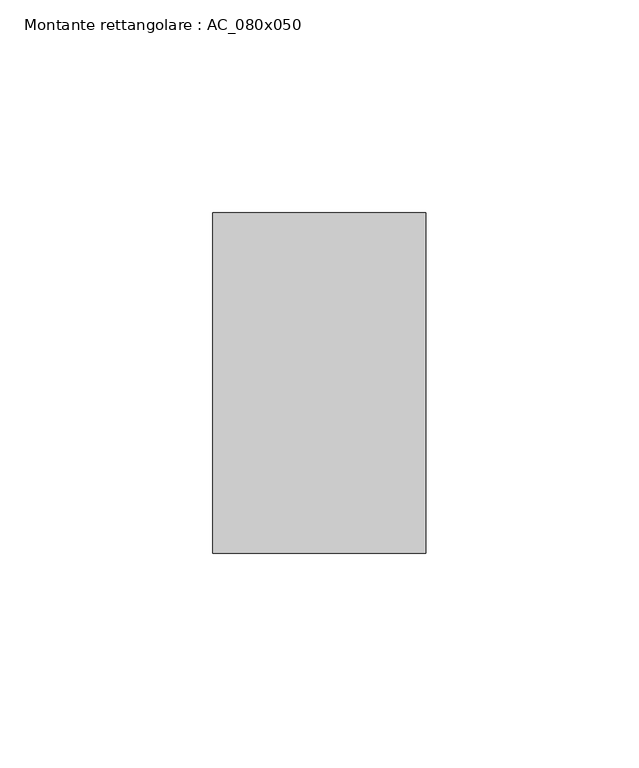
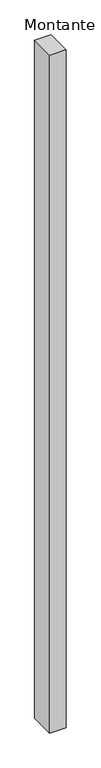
"""IFC4 building model written with IfcOpenShell, lengths in millimetres: member geometry, Montante rettangolare : AC_080x050."""

from ifc_helpers import new_model, si_unit, frame, origin, place, context, project, spatial, polyline, outline, extrude, source, transform, mapped, element, save


def montante_rettangolare_ac_080x050_85a4022c(model_context):
    return source(origin(), model_context, "Body", "SweptSolid", [
        extrude(outline(polyline([(0.0, 40.0), (0.0, -40.0), (-50.0, -40.0), (-50.0, 40.0), (0.0, 40.0)])), frame((0.0, 0.0, -2200.0), z_axis=(0.0, 0.0, 1.0), x_axis=(1.0, 0.0, 0.0)), (0.0, 0.0, 1.0), 2200.0),
    ])


if __name__ == "__main__":
    model = new_model("IFC4")
    model_context = context("Model", 3, world=origin())
    ifc_project = project(units=[si_unit("LENGTHUNIT", "METRE", prefix="MILLI")], contexts=[model_context])
    site = spatial("IfcSite", under=ifc_project)
    building = spatial("IfcBuilding", under=site)
    placement = place(None, origin())
    montante_rettangolare_ac_080x050_shape = montante_rettangolare_ac_080x050_85a4022c(model_context)
    element("IfcMember", 1, ObjectType="Montante rettangolare : AC_080x050", at=placement, inside=building, context=model_context, shape_type="MappedRepresentation", body=[
        mapped(montante_rettangolare_ac_080x050_shape, transform((0.0, 0.0, 0.0), x_axis=(1.0, 0.0, 0.0), y_axis=(0.0, 1.0, 0.0), z_axis=(0.0, 0.0, 1.0))),
    ])
    save(model, "model.ifc")
